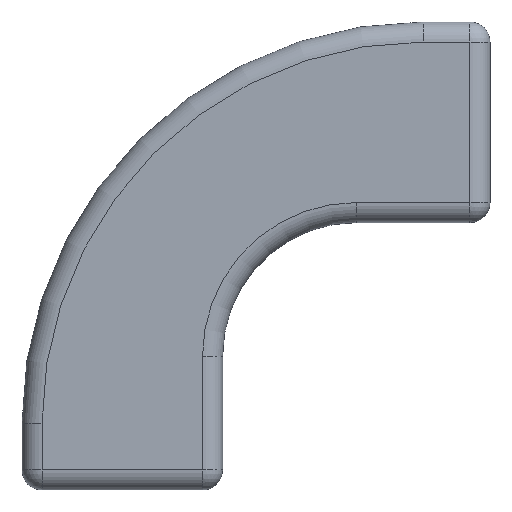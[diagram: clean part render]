
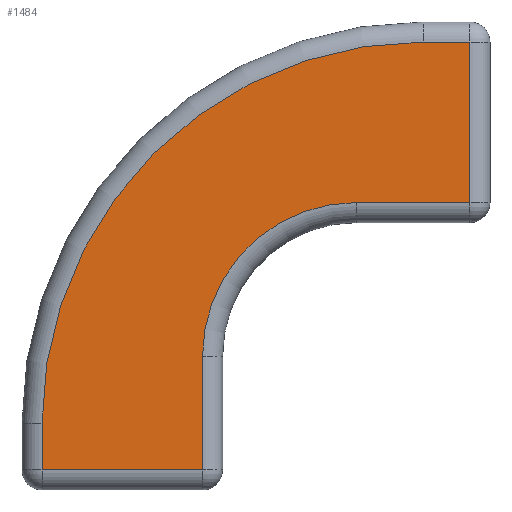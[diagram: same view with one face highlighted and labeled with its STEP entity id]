
A CAD part, top view. The second image highlights one B-rep face of the part: STEP entity #1484.
In plain terms, the highlighted planar face has unit normal (0, 0, 1).
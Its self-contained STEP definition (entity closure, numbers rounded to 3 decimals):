
#1 = AXIS2_PLACEMENT_3D ( 'NONE', #1135, #1016, #1504 ) ;
#7 = CIRCLE ( 'NONE', #1087, 57. ) ;
#49 = LINE ( 'NONE', #1403, #1118 ) ;
#81 = LINE ( 'NONE', #1010, #1552 ) ;
#98 = EDGE_CURVE ( 'NONE', #1323, #248, #1452, .T. ) ;
#123 = CARTESIAN_POINT ( 'NONE',  ( -33., 10., 3. ) ) ;
#139 = EDGE_CURVE ( 'NONE', #801, #345, #487, .T. ) ;
#142 = ORIENTED_EDGE ( 'NONE', *, *, #1326, .T. ) ;
#184 = CIRCLE ( 'NONE', #1, 23. ) ;
#185 = CARTESIAN_POINT ( 'NONE',  ( 0., 57., 3. ) ) ;
#245 = DIRECTION ( 'NONE',  ( 0., 0., 1. ) ) ;
#248 = VERTEX_POINT ( 'NONE', #1261 ) ;
#259 = ORIENTED_EDGE ( 'NONE', *, *, #139, .T. ) ;
#262 = ORIENTED_EDGE ( 'NONE', *, *, #455, .T. ) ;
#264 = VERTEX_POINT ( 'NONE', #185 ) ;
#333 = EDGE_CURVE ( 'NONE', #345, #264, #81, .T. ) ;
#345 = VERTEX_POINT ( 'NONE', #1131 ) ;
#362 = CARTESIAN_POINT ( 'NONE',  ( -10., 33., 3. ) ) ;
#366 = EDGE_CURVE ( 'NONE', #264, #1323, #7, .T. ) ;
#430 = CARTESIAN_POINT ( 'NONE',  ( -33., -7., 3. ) ) ;
#433 = CARTESIAN_POINT ( 'NONE',  ( -33., -7., 3. ) ) ;
#455 = EDGE_CURVE ( 'NONE', #1157, #801, #49, .T. ) ;
#487 = LINE ( 'NONE', #1563, #936 ) ;
#538 = LINE ( 'NONE', #1034, #1272 ) ;
#550 = LINE ( 'NONE', #430, #1163 ) ;
#594 = DIRECTION ( 'NONE',  ( 0., -1., 0. ) ) ;
#598 = VERTEX_POINT ( 'NONE', #123 ) ;
#621 = DIRECTION ( 'NONE',  ( 0., 0., 1. ) ) ;
#639 = EDGE_LOOP ( 'NONE', ( #1523, #977, #142, #1191, #736, #262, #259, #1536 ) ) ;
#671 = DIRECTION ( 'NONE',  ( 1., 0., 0. ) ) ;
#732 = DIRECTION ( 'NONE',  ( 0., 1., 0. ) ) ;
#736 = ORIENTED_EDGE ( 'NONE', *, *, #1304, .T. ) ;
#769 = CARTESIAN_POINT ( 'NONE',  ( 7., 33., 3. ) ) ;
#801 = VERTEX_POINT ( 'NONE', #769 ) ;
#855 = DIRECTION ( 'NONE',  ( 1., 0., 0. ) ) ;
#908 = AXIS2_PLACEMENT_3D ( 'NONE', #1440, #245, #1556 ) ;
#913 = VERTEX_POINT ( 'NONE', #433 ) ;
#936 = VECTOR ( 'NONE', #732, 1000. ) ;
#963 = CARTESIAN_POINT ( 'NONE',  ( -57., -7., 3. ) ) ;
#965 = FACE_OUTER_BOUND ( 'NONE', #639, .T. ) ;
#977 = ORIENTED_EDGE ( 'NONE', *, *, #98, .T. ) ;
#996 = EDGE_CURVE ( 'NONE', #913, #598, #538, .T. ) ;
#1010 = CARTESIAN_POINT ( 'NONE',  ( -57., 57., 3. ) ) ;
#1016 = DIRECTION ( 'NONE',  ( 0., 0., -1. ) ) ;
#1029 = DIRECTION ( 'NONE',  ( 0., 1., 0. ) ) ;
#1034 = CARTESIAN_POINT ( 'NONE',  ( -33., 10., 3. ) ) ;
#1048 = DIRECTION ( 'NONE',  ( -1., 0., 0. ) ) ;
#1087 = AXIS2_PLACEMENT_3D ( 'NONE', #1096, #621, #855 ) ;
#1096 = CARTESIAN_POINT ( 'NONE',  ( 0., 0., 3. ) ) ;
#1118 = VECTOR ( 'NONE', #671, 1000. ) ;
#1131 = CARTESIAN_POINT ( 'NONE',  ( 7., 57., 3. ) ) ;
#1135 = CARTESIAN_POINT ( 'NONE',  ( -10., 10., 3. ) ) ;
#1157 = VERTEX_POINT ( 'NONE', #362 ) ;
#1163 = VECTOR ( 'NONE', #1518, 1000. ) ;
#1191 = ORIENTED_EDGE ( 'NONE', *, *, #996, .T. ) ;
#1261 = CARTESIAN_POINT ( 'NONE',  ( -57., -7., 3. ) ) ;
#1272 = VECTOR ( 'NONE', #1029, 1000. ) ;
#1276 = CARTESIAN_POINT ( 'NONE',  ( -57., 0., 3. ) ) ;
#1304 = EDGE_CURVE ( 'NONE', #598, #1157, #184, .T. ) ;
#1321 = PLANE ( 'NONE',  #908 ) ;
#1323 = VERTEX_POINT ( 'NONE', #1276 ) ;
#1326 = EDGE_CURVE ( 'NONE', #248, #913, #550, .T. ) ;
#1403 = CARTESIAN_POINT ( 'NONE',  ( -57., 33., 3. ) ) ;
#1440 = CARTESIAN_POINT ( 'NONE',  ( -57., -7., 3. ) ) ;
#1452 = LINE ( 'NONE', #963, #1473 ) ;
#1473 = VECTOR ( 'NONE', #594, 1000. ) ;
#1484 = ADVANCED_FACE ( 'NONE', ( #965 ), #1321, .T. ) ;
#1504 = DIRECTION ( 'NONE',  ( 1., 0., 0. ) ) ;
#1518 = DIRECTION ( 'NONE',  ( 1., 0., 0. ) ) ;
#1523 = ORIENTED_EDGE ( 'NONE', *, *, #366, .T. ) ;
#1536 = ORIENTED_EDGE ( 'NONE', *, *, #333, .T. ) ;
#1552 = VECTOR ( 'NONE', #1048, 1000. ) ;
#1556 = DIRECTION ( 'NONE',  ( 1., 0., 0. ) ) ;
#1563 = CARTESIAN_POINT ( 'NONE',  ( 7., -7., 3. ) ) ;
